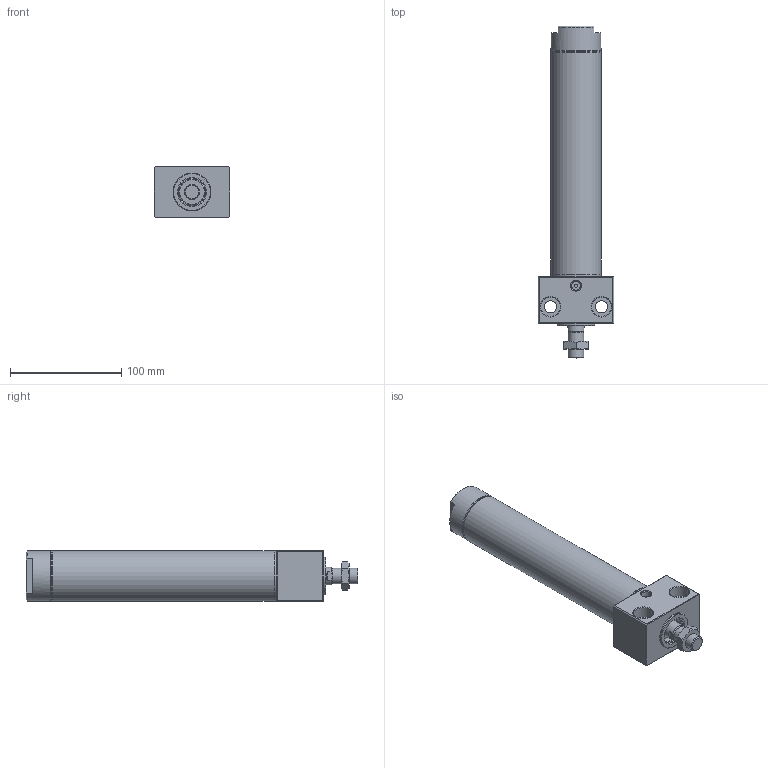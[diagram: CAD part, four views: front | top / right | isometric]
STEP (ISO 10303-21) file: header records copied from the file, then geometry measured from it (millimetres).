
FILE_DESCRIPTION((''),'2;1');
FILE_NAME('I:\3D電子目錄\氣缸\DBS\DBS\DBS40x150.stp','2007-10-08T08:49:56',('Administrator'),(''),'Autodesk Inventor 2008','Autodesk Inventor 2008','');
FILE_SCHEMA(('AUTOMOTIVE_DESIGN { 1 0 10303 214 1 1 1 1 }'));
Length unit declared in the file: millimetre
Products named in the file (1): DBS40x150
Bounding box: 68 x 298.6 x 46 mm (x, y, z)
Volume: 271476.5 mm3; surface area: 102316.1 mm2
Topology: 6 solids, 6 shells, 166 faces, 323 edges, 195 vertices
Faces by surface type: plane 74, cone 41, cylinder 35, bspline 13, torus 3
Full cylindrical faces by diameter (mm): 3 x1, 10.5 x1, 12 x1, 13 x1, 14 x2, 16 x1, 16.5 x1, 18 x1, 21 x2, 24 x3, 26 x2, 27.5 x1, 28 x2, 34 x1, 38 x2, 38.5 x2, 40 x1, 42.2 x6, 45 x4
Entity records: 3958 total; most frequent: CARTESIAN_POINT 865, DIRECTION 652, ORIENTED_EDGE 488, AXIS2_PLACEMENT_3D 287, EDGE_LOOP 280, EDGE_CURVE 244, VERTEX_POINT 188, FACE_OUTER_BOUND 166
